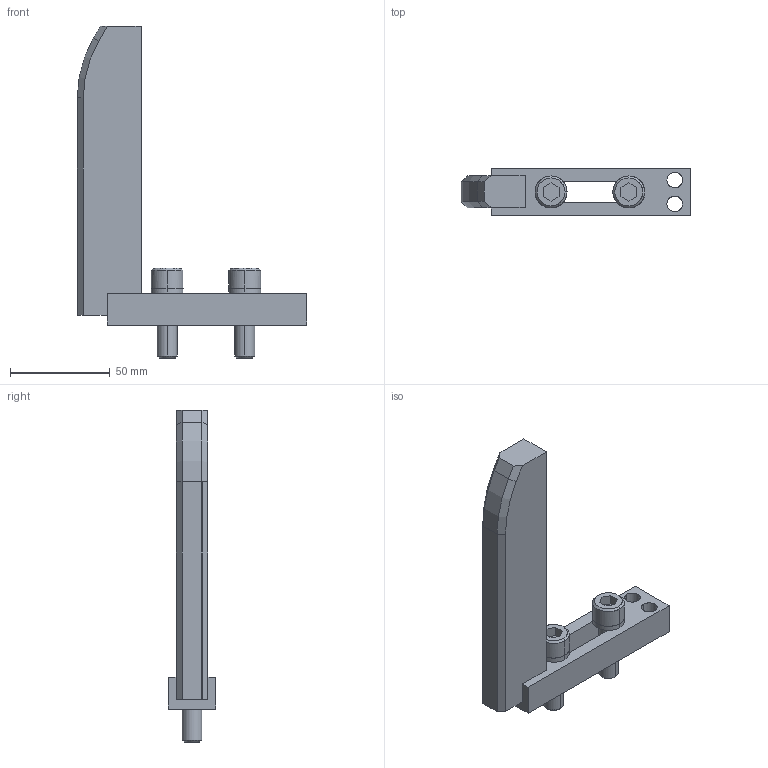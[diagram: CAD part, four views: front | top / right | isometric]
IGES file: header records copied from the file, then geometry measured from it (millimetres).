
Global section: file name: E:\UnigraphicsGraphicData\MISUMI_PRESS-PARTS\IGES\3d_ngnba-150-20-m10_01527_r00.igs; native system: NX V5.0; preprocessor: UGS NX IGES V5.0; author: MISUMI; date: 20110105.162047; units: millimetre
Bounding box: 115 x 24 x 166.5 mm (x, y, z)
Surface area: 29957 mm2 (no closed solid volume)
Topology: 0 solids, 0 shells, 100 faces, 629 edges, 629 vertices
Faces by surface type: bspline 100
